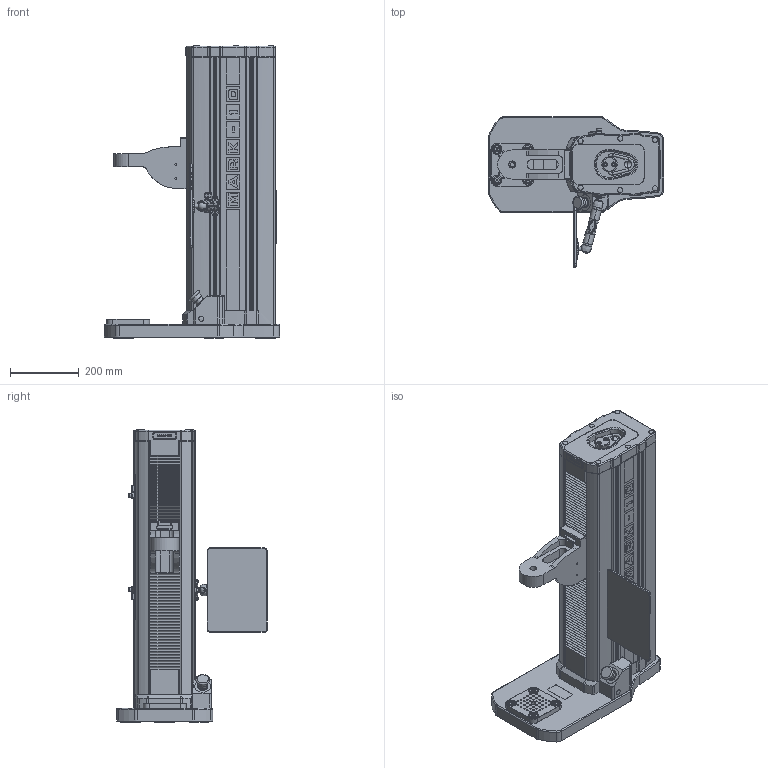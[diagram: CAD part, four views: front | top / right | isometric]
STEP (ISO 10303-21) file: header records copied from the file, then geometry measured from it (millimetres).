
FILE_DESCRIPTION(/* description */ (''),/* implementation_level */ '2;1');
FILE_NAME(/* name */ 'F:\CAD files\Itr\3D MARKETING MODELS\MOTORIZED TEST STANDS\FXXX5X\755S-IMT\F755S_IMT.stp',/* time_stamp */ '2021-02-05T15:31:07-05:00',/* author */ ('dsollitt'),/* organization */ (''),/* preprocessor_version */ 'ST-DEVELOPER v18.1',/* originating_system */ 'AutoCAD Mechanical',/* authorisation */ '');
FILE_SCHEMA (('AUTOMOTIVE_DESIGN { 1 0 10303 214 3 1 1 }'));
Products named in the file (1): Product
Bounding box: 508 x 437.5 x 849.27 mm (x, y, z)
Volume: 39944965.3 mm3; surface area: 1823659.5 mm2
Topology: 5 solids, 12 shells, 8697 faces, 25910 edges, 17975 vertices
Faces by surface type: plane 7001, cylinder 1061, cone 226, bspline 203, torus 143, sphere 63
Full cylindrical faces by diameter (mm): 0.4 x1, 0.6 x1, 1.015 x2, 1.55 x4, 1.797 x2, 2 x2, 2.13 x1, 2.845 x8, 3.048 x8, 3.328 x1, 3.505 x2, 3.556 x1, 4.7 x24, 4.826 x48, 5.41 x8, 5.563 x2, 6 x2, 6.35 x39, 6.731 x4, 7.938 x4, 9.169 x2, 9.525 x6, 9.8 x1, 11.43 x1, 11.906 x2, 12.1 x1, 12.7 x3, 12.8 x2, 12.954 x4, 13.462 x2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
Entity records: 314341 total; most frequent: CARTESIAN_POINT 77547, ORIENTED_EDGE 51752, DIRECTION 45284, EDGE_CURVE 25876, LINE 21976, VECTOR 21976, VERTEX_POINT 17975, AXIS2_PLACEMENT_3D 11654
